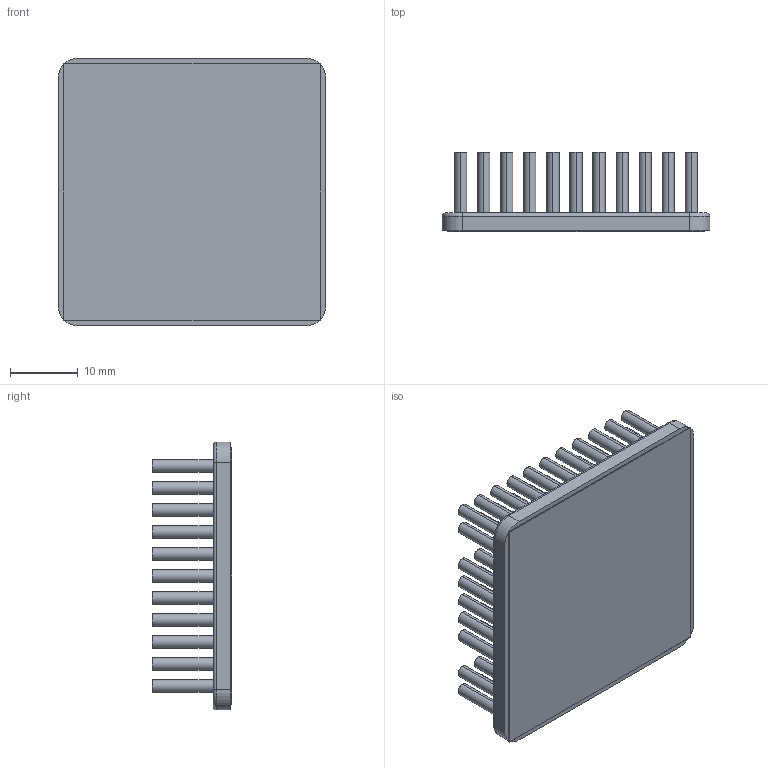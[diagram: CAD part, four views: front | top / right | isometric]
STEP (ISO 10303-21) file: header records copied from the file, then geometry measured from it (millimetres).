
FILE_DESCRIPTION (( 'STEP AP214' ), '1' );
FILE_NAME ('INM40002-12PCU-2.6.STEP', '2023-02-27T17:28:22', ( '' ), ( '' ), 'SwSTEP 2.0', 'SolidWorks 2020', '' );
FILE_SCHEMA (( 'AUTOMOTIVE_DESIGN' ));
Length unit declared in the file: inch
Products named in the file (1): INM40002-12PCU-2.6
Bounding box: 39.6 x 11.73 x 39.6 mm (x, y, z)
Volume: 6820.3 mm3; surface area: 12144.6 mm2
Topology: 2 solids, 2 shells, 363 faces, 730 edges, 484 vertices
Faces by surface type: cylinder 234, plane 125, torus 4
Entity records: 14462 total; most frequent: DIRECTION 1930, CARTESIAN_POINT 1578, ORIENTED_EDGE 1460, AXIS2_PLACEMENT_3D 836, EDGE_CURVE 730, VERTEX_POINT 484, EDGE_LOOP 476, CIRCLE 472
